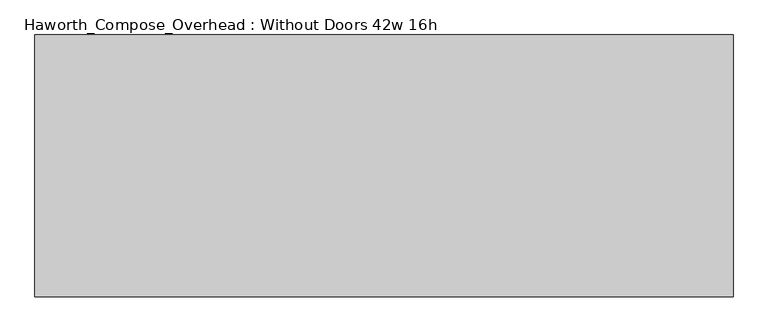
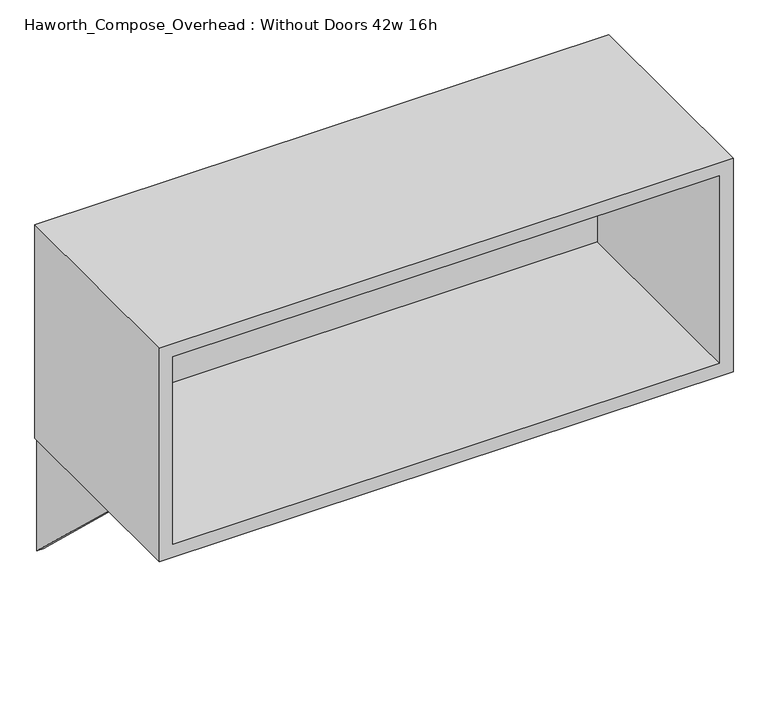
"""IFC4 building model written with IfcOpenShell, lengths in millimetres: furniture geometry, Haworth_Compose_Overhead : Without Doors 42w 16h."""

from ifc_helpers import new_model, si_unit, frame, origin, place, context, project, spatial, polyline, outline, extrude, source, transform, mapped, element, save


def haworth_compose_overhead_without_doors_42w_16h_a72715c7(model_context):
    return source(origin(), model_context, "Body", "SweptSolid", [
        extrude(outline(polyline([(0.0, 1270.0), (0.0, 1047.75), (-234.95, 1270.0), (0.0, 1270.0)])), frame((682.625, 0.0, 0.0), z_axis=(1.0, 0.0, 0.0), x_axis=(0.0, 1.0, 0.0)), (0.0, 0.0, 1.0), 12.7),
        extrude(outline(polyline([(0.0, 1270.0), (0.0, 1047.75), (-234.95, 1270.0), (0.0, 1270.0)])), frame((-365.125, 0.0, 0.0), z_axis=(1.0, 0.0, 0.0), x_axis=(0.0, 1.0, 0.0)), (0.0, 0.0, 1.0), 12.7),
        extrude(outline(polyline([(673.1, -6.35), (-342.9, -6.35), (-342.9, 0.0), (673.1, 0.0), (673.1, -6.35)])), frame((0.0, 0.0, 1295.4), z_axis=(0.0, 0.0, 1.0), x_axis=(1.0, 0.0, 0.0)), (0.0, 0.0, 1.0), 368.3),
        extrude(outline(polyline([(1270.0, 698.5), (1689.1, 698.5), (1689.1, -368.3), (1270.0, -368.3), (1270.0, 698.5)]), holes=[polyline([(1663.7, 673.1), (1295.4, 673.1), (1295.4, -342.9), (1663.7, -342.9), (1663.7, 673.1)])]), frame((0.0, -400.05, 0.0), z_axis=(0.0, 1.0, 0.0), x_axis=(0.0, 0.0, 1.0)), (0.0, 0.0, 1.0), 400.05),
    ])


if __name__ == "__main__":
    model = new_model("IFC4")
    model_context = context("Model", 3, world=origin())
    ifc_project = project(units=[si_unit("LENGTHUNIT", "METRE", prefix="MILLI")], contexts=[model_context])
    site = spatial("IfcSite", under=ifc_project)
    building = spatial("IfcBuilding", under=site)
    placement = place(None, origin())
    haworth_compose_overhead_without_doors_42w_16h_shape = haworth_compose_overhead_without_doors_42w_16h_a72715c7(model_context)
    element("IfcFurniture", 1, ObjectType="Haworth_Compose_Overhead : Without Doors 42w 16h", at=placement, inside=building, context=model_context, shape_type="MappedRepresentation", body=[
        mapped(haworth_compose_overhead_without_doors_42w_16h_shape, transform((0.0, 0.0, 0.0), x_axis=(1.0, 0.0, 0.0), y_axis=(0.0, 1.0, 0.0), z_axis=(0.0, 0.0, 1.0))),
    ])
    save(model, "model.ifc")
